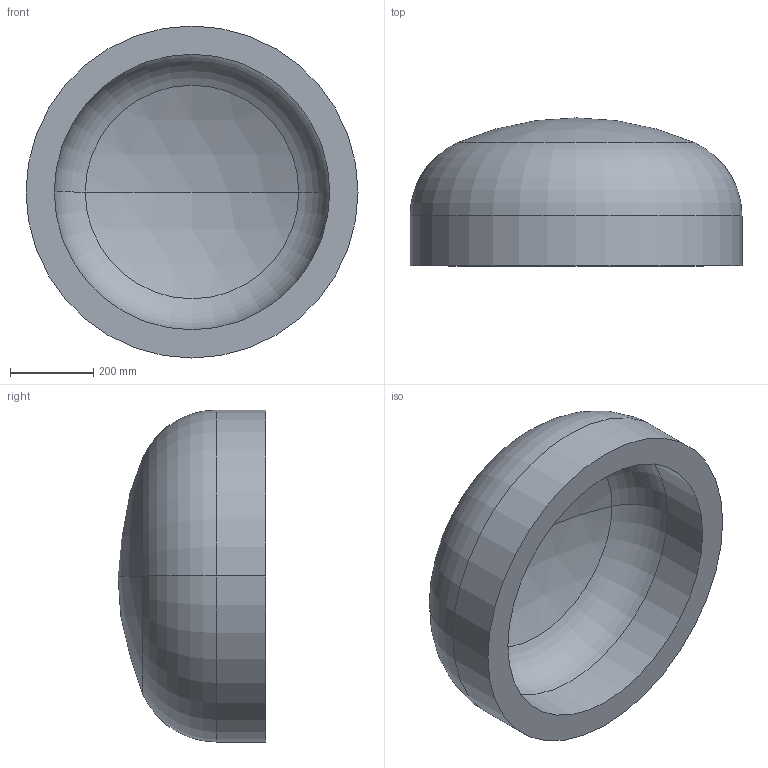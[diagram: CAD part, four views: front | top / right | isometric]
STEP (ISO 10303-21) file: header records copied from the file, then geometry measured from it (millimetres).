
FILE_DESCRIPTION (( 'STEP AP203' ), '1' );
FILE_NAME ('DIN 28013 Korbbogenform_-_Boden DIN 28013 - 800 x 120 - I - s=68.step', '2016-07-01T08:20:06', ( '' ), ( '' ), 'SwSTEP 2.0', 'SolidWorks 2013', '' );
FILE_SCHEMA (( 'CONFIG_CONTROL_DESIGN' ));
Length unit declared in the file: millimetre
Products named in the file (1): DIN 28013 Korbbogenform_-_Boden DIN 28013 - 800 x 120 - I - s=68
Bounding box: 800 x 356.43 x 800 mm (x, y, z)
Volume: 61461332.8 mm3; surface area: 1973746.4 mm2
Topology: 1 solids, 1 shells, 13 faces, 24 edges, 14 vertices
Faces by surface type: torus 4, cylinder 4, sphere 4, plane 1
Entity records: 407 total; most frequent: DIRECTION 72, CARTESIAN_POINT 52, ORIENTED_EDGE 48, AXIS2_PLACEMENT_3D 34, EDGE_CURVE 24, CIRCLE 20, EDGE_LOOP 14, VERTEX_POINT 14
